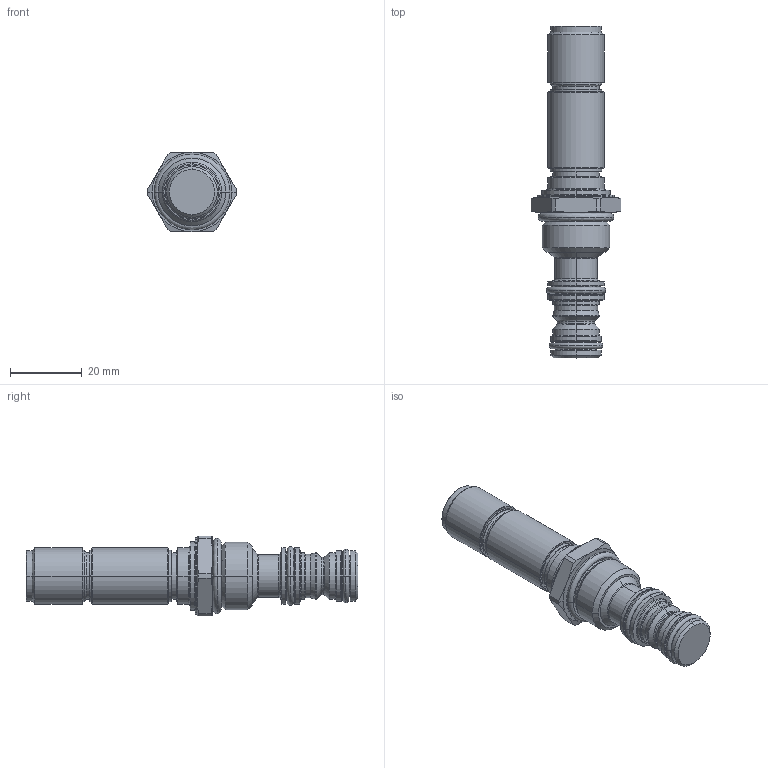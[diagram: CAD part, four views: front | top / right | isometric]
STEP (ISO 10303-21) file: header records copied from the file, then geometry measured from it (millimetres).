
FILE_DESCRIPTION((''),'2;1');
FILE_NAME('5278100_SW0001','2009-03-16T',('jcs'),(''),'PRO/ENGINEER BY PARAMETRIC TECHNOLOGY CORPORATION, 2008010','PRO/ENGINEER BY PARAMETRIC TECHNOLOGY CORPORATION, 2008010','');
FILE_SCHEMA(('CONFIG_CONTROL_DESIGN'));
Length unit declared in the file: inch
Products named in the file (1): 5278100_SW0001
Bounding box: 25.02 x 92.82 x 22.23 mm (x, y, z)
Volume: 18193.9 mm3; surface area: 6869.5 mm2
Topology: 3 solids, 3 shells, 213 faces, 446 edges, 248 vertices
Faces by surface type: cylinder 62, torus 56, cone 50, revolution 24, plane 21
Entity records: 6256 total; most frequent: CARTESIAN_POINT 1585, DIRECTION 1078, ORIENTED_EDGE 892, AXIS2_PLACEMENT_3D 471, EDGE_CURVE 446, CIRCLE 282, VERTEX_POINT 248, EDGE_LOOP 226
